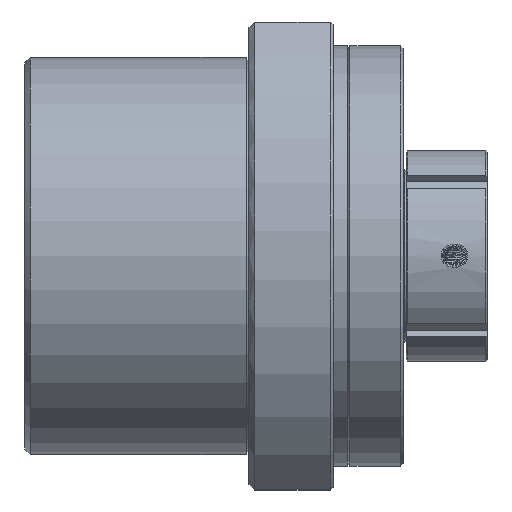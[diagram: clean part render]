
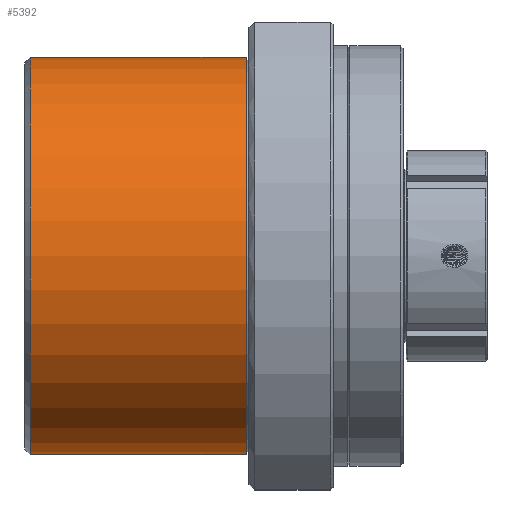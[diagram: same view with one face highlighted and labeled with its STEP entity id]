
A CAD part, top view. The second image highlights one B-rep face of the part: STEP entity #5392.
In plain terms, the highlighted cylindrical face has radius 42.5 mm (diameter 85 mm), a full revolution.
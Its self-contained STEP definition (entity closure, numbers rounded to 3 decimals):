
#4438=EDGE_CURVE('',#11856,#11856,#11857,.T.);
#5392=ADVANCED_FACE('',(#13421,#13422),#13423,.T.);
#7388=EDGE_CURVE('',#16471,#16471,#16472,.T.);
#11856=VERTEX_POINT('',#23372);
#11857=CIRCLE('',#23373,42.5);
#13421=FACE_OUTER_BOUND('',#26256,.T.);
#13422=FACE_OUTER_BOUND('',#26257,.T.);
#13423=CYLINDRICAL_SURFACE('',#26258,42.5);
#16471=VERTEX_POINT('',#32032);
#16472=CIRCLE('',#32033,42.5);
#23372=CARTESIAN_POINT('',(1.2,0.0,42.5));
#23373=AXIS2_PLACEMENT_3D('',#41305,#41306,#41307);
#26256=EDGE_LOOP('',(#43073));
#26257=EDGE_LOOP('',(#43074));
#26258=AXIS2_PLACEMENT_3D('',#43075,#43076,#43077);
#32032=CARTESIAN_POINT('',(47.4,0.0,42.5));
#32033=AXIS2_PLACEMENT_3D('',#46715,#46716,#46717);
#41305=CARTESIAN_POINT('',(1.2,0.0,0.0));
#41306=DIRECTION('',(1.0,0.0,-0.0));
#41307=DIRECTION('',(0.0,0.0,1.0));
#43073=ORIENTED_EDGE('',*,*,#4438,.T.);
#43074=ORIENTED_EDGE('',*,*,#7388,.F.);
#43075=CARTESIAN_POINT('',(24.3,0.0,0.0));
#43076=DIRECTION('',(-1.0,0.0,0.0));
#43077=DIRECTION('',(0.0,0.0,1.0));
#46715=CARTESIAN_POINT('',(47.4,0.0,0.0));
#46716=DIRECTION('',(1.0,0.0,-0.0));
#46717=DIRECTION('',(0.0,0.0,1.0));
